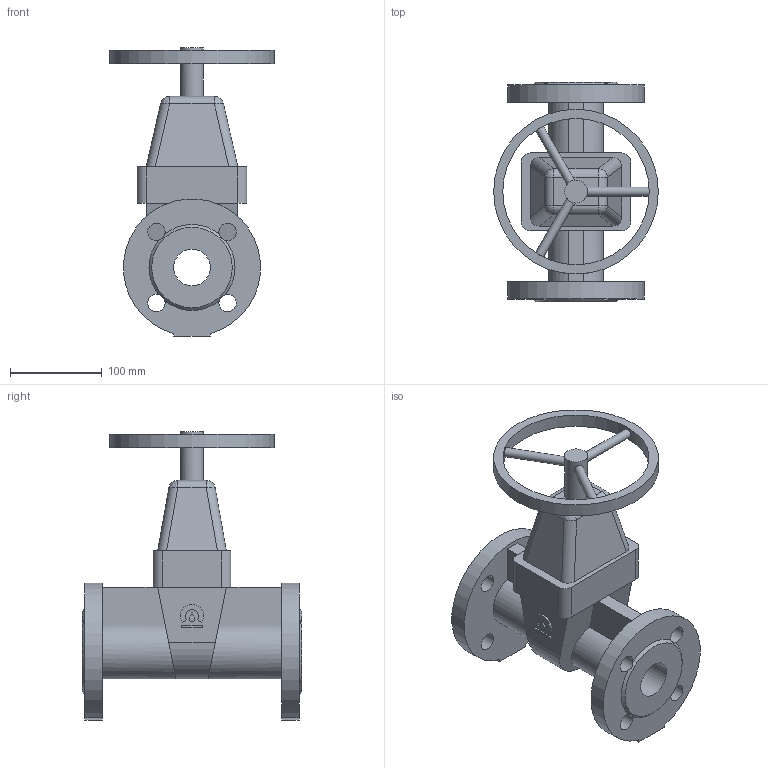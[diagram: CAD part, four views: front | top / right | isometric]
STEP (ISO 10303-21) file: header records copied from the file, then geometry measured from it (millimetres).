
FILE_DESCRIPTION(('STEP AP203'), '1');
FILE_NAME('Çàäâèæêà 47GV DN40 PN10_PN16_L240_W180 ñ ìàõîâèêîì', '', ('UNSPECIFIED'), ('UNSPECIFIED'), 'ASCON STEP Converter 1.6', 'ASCON Math Kernel', '');
FILE_SCHEMA(('CONFIG_CONTROL_DESIGN'));
Length unit declared in the file: millimetre
Bounding box: 180 x 240 x 315 mm (x, y, z)
Volume: 2310036.5 mm3; surface area: 260282.1 mm2
Topology: 1 solids, 1 shells, 96 faces, 259 edges, 164 vertices
Faces by surface type: plane 50, cylinder 40, bspline 4, cone 2
Full cylindrical faces by diameter (mm): 10 x3, 19 x8, 25 x1, 40 x1, 160 x1, 180 x1
Entity records: 5374 total; most frequent: CARTESIAN_POINT 2199, DIRECTION 482, ORIENTED_EDGE 476, EDGE_CURVE 238, AXIS2_PLACEMENT_3D 177, VERTEX_POINT 164, EDGE_LOOP 140, LINE 128
